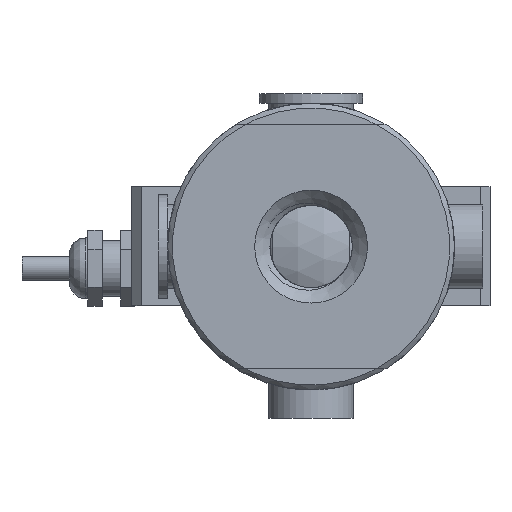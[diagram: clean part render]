
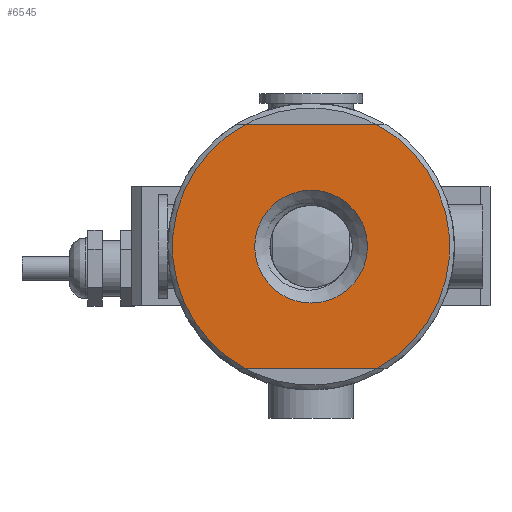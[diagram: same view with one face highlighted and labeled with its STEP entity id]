
A CAD part, front view. The second image highlights one B-rep face of the part: STEP entity #6545.
In plain terms, the highlighted planar face has unit normal (0, -1, 0) as drawn and (0, 1, 0) by its records, which use the part's own axes.
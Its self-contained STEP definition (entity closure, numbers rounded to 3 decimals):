
#238=FACE_BOUND('',#1074,.T.);
#325=PLANE('',#7134);
#675=FACE_OUTER_BOUND('',#1073,.T.);
#1073=EDGE_LOOP('',(#5638,#5639,#5640,#5641));
#1074=EDGE_LOOP('',(#5642));
#1287=CIRCLE('',#7135,29.5);
#1288=CIRCLE('',#7136,29.5);
#1289=CIRCLE('',#7137,12.);
#2030=LINE('',#27762,#2347);
#2035=LINE('',#27791,#2352);
#2347=VECTOR('',#8372,10.);
#2352=VECTOR('',#8381,10.);
#2936=VERTEX_POINT('',#27757);
#2937=VERTEX_POINT('',#27761);
#2946=VERTEX_POINT('',#27786);
#2947=VERTEX_POINT('',#27790);
#2953=VERTEX_POINT('',#27810);
#3864=EDGE_CURVE('',#2936,#2937,#2030,.T.);
#3874=EDGE_CURVE('',#2946,#2947,#2035,.T.);
#3881=EDGE_CURVE('',#2936,#2947,#1287,.T.);
#3882=EDGE_CURVE('',#2946,#2937,#1288,.T.);
#3883=EDGE_CURVE('',#2953,#2953,#1289,.T.);
#5638=ORIENTED_EDGE('',*,*,#3864,.F.);
#5639=ORIENTED_EDGE('',*,*,#3881,.T.);
#5640=ORIENTED_EDGE('',*,*,#3874,.F.);
#5641=ORIENTED_EDGE('',*,*,#3882,.T.);
#5642=ORIENTED_EDGE('',*,*,#3883,.T.);
#6545=ADVANCED_FACE('',(#675,#238),#325,.F.);
#7134=AXIS2_PLACEMENT_3D('',#27807,#8387,#8388);
#7135=AXIS2_PLACEMENT_3D('',#27808,#8389,#8390);
#7136=AXIS2_PLACEMENT_3D('',#27809,#8391,#8392);
#7137=AXIS2_PLACEMENT_3D('',#27811,#8393,#8394);
#8372=DIRECTION('',(0.,0.,-1.));
#8381=DIRECTION('',(0.,0.,1.));
#8387=DIRECTION('center_axis',(0.,-1.,0.));
#8388=DIRECTION('ref_axis',(0.,0.,-1.));
#8389=DIRECTION('center_axis',(0.,1.,0.));
#8390=DIRECTION('ref_axis',(-1.,0.,0.));
#8391=DIRECTION('center_axis',(0.,1.,0.));
#8392=DIRECTION('ref_axis',(-1.,0.,0.));
#8393=DIRECTION('center_axis',(0.,-1.,0.));
#8394=DIRECTION('ref_axis',(-1.,0.,0.));
#27757=CARTESIAN_POINT('',(-26.,160.,13.937));
#27761=CARTESIAN_POINT('',(-26.,160.,-13.937));
#27762=CARTESIAN_POINT('',(-26.,160.,0.));
#27786=CARTESIAN_POINT('',(26.,160.,-13.937));
#27790=CARTESIAN_POINT('',(26.,160.,13.937));
#27791=CARTESIAN_POINT('',(26.,160.,0.));
#27807=CARTESIAN_POINT('Origin',(30.5,160.,0.));
#27808=CARTESIAN_POINT('Origin',(0.,160.,0.));
#27809=CARTESIAN_POINT('Origin',(0.,160.,0.));
#27810=CARTESIAN_POINT('',(12.,160.,0.));
#27811=CARTESIAN_POINT('Origin',(0.,160.,0.));
